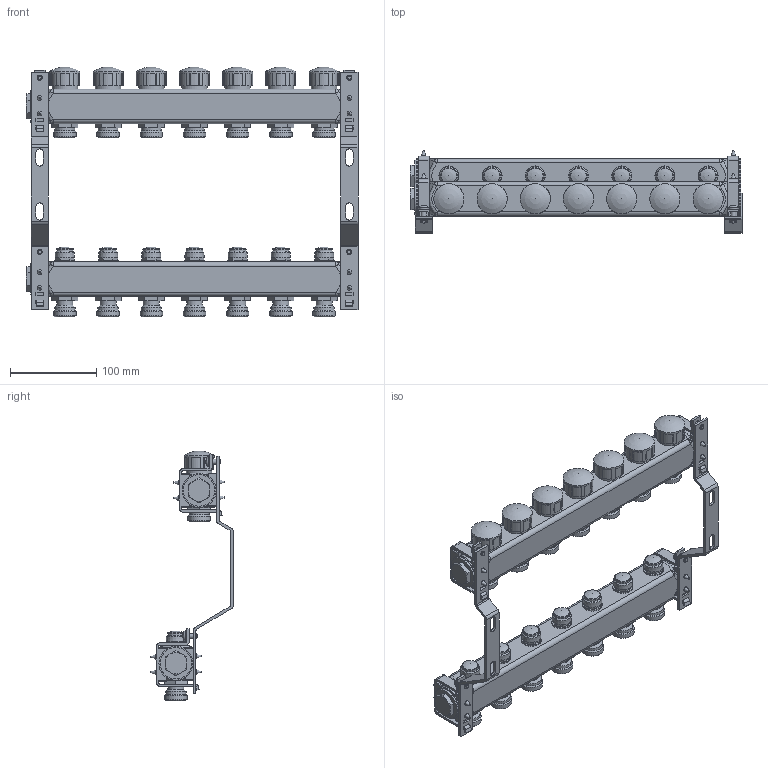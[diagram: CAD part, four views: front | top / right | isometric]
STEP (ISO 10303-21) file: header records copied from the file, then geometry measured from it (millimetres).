
FILE_DESCRIPTION(('STEP AP203'), '1');
FILE_NAME('VTc.582.EMNX.0607', '', ('UNSPECIFIED'), ('UNSPECIFIED'), 'C3D Converter', 'C3D Toolkit', '');
FILE_SCHEMA(('CONFIG_CONTROL_DESIGN'));
Length unit declared in the file: millimetre
Products named in the file (1): -04
Bounding box: 384.2 x 95.7 x 289.2 mm (x, y, z)
Volume: 1543049.3 mm3; surface area: 221354.8 mm2
Topology: 1 solids, 1 shells, 1167 faces, 3158 edges, 2020 vertices
Faces by surface type: plane 658, cylinder 296, cone 89, torus 74, bspline 36, sphere 14
Full cylindrical faces by diameter (mm): 5.4 x16, 6 x8, 12 x4, 18.4 x7, 19.3 x7, 22.9 x7, 23 x7, 23.5 x7, 25.9 x7, 26 x7, 29.5 x7, 34.9 x7, 35.3 x2, 36.5 x2, 39.3 x4
Entity records: 46158 total; most frequent: CARTESIAN_POINT 17660, ORIENTED_EDGE 5860, DIRECTION 5766, EDGE_CURVE 2930, AXIS2_PLACEMENT_3D 2040, VERTEX_POINT 2004, LINE 1686, VECTOR 1686
